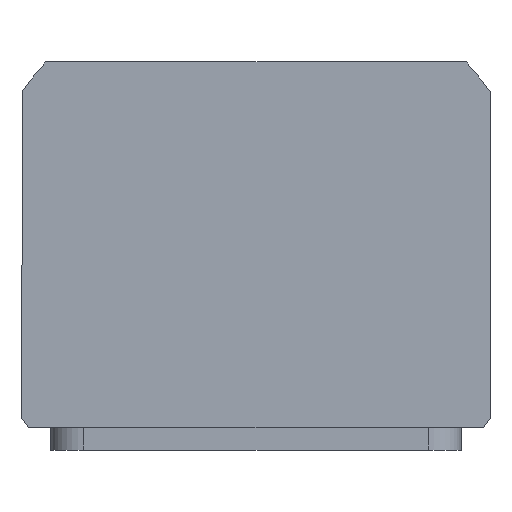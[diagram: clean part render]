
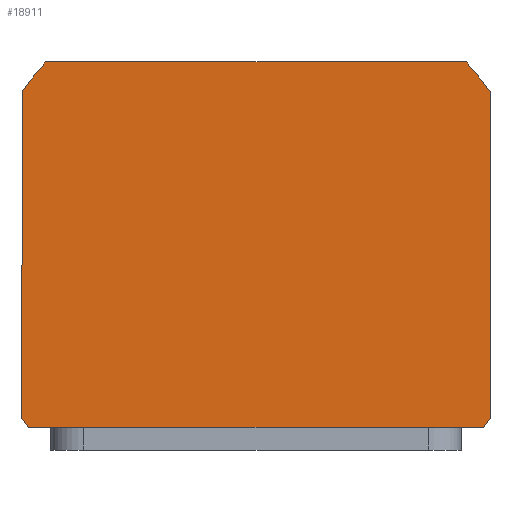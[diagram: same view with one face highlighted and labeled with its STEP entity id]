
A CAD part, top view. The second image highlights one B-rep face of the part: STEP entity #18911.
In plain terms, the highlighted planar face has unit normal (0, 0, 1) as drawn and (0, 0, -1) by its records, which use the part's own axes.
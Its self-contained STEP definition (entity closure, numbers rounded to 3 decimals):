
#450 = VECTOR ( 'NONE', #20186, 1000. ) ;
#657 = DIRECTION ( 'NONE',  ( 1., 0., 0. ) ) ;
#794 = VECTOR ( 'NONE', #4384, 1000. ) ;
#1077 = AXIS2_PLACEMENT_3D ( 'NONE', #2618, #15007, #4395 ) ;
#1156 = AXIS2_PLACEMENT_3D ( 'NONE', #21855, #11262, #657 ) ;
#1867 = CARTESIAN_POINT ( 'NONE',  ( 57., 42.275, 0. ) ) ;
#2120 = CARTESIAN_POINT ( 'NONE',  ( -57., -37.255, 0. ) ) ;
#2406 = FACE_OUTER_BOUND ( 'NONE', #16281, .T. ) ;
#2480 = EDGE_CURVE ( 'NONE', #22853, #8875, #10194, .T. ) ;
#2618 = CARTESIAN_POINT ( 'NONE',  ( 0., 2.51, 0. ) ) ;
#3253 = DIRECTION ( 'NONE',  ( 0., 0., 1. ) ) ;
#3346 = CARTESIAN_POINT ( 'NONE',  ( 55.382, 44.5, 0. ) ) ;
#3394 = DIRECTION ( 'NONE',  ( 0., -1., 0. ) ) ;
#3952 = AXIS2_PLACEMENT_3D ( 'NONE', #13858, #3253, #15634 ) ;
#4026 = ORIENTED_EDGE ( 'NONE', *, *, #5875, .F. ) ;
#4384 = DIRECTION ( 'NONE',  ( 0., 1., 0. ) ) ;
#4395 = DIRECTION ( 'NONE',  ( 1., 0., 0. ) ) ;
#4594 = LINE ( 'NONE', #14013, #13995 ) ;
#5151 = LINE ( 'NONE', #11281, #450 ) ;
#5875 = EDGE_CURVE ( 'NONE', #21600, #22853, #10846, .T. ) ;
#5992 = CARTESIAN_POINT ( 'NONE',  ( -57., 42.275, 0. ) ) ;
#6539 = PLANE ( 'NONE',  #14037 ) ;
#6618 = DIRECTION ( 'NONE',  ( 1., 0., 0. ) ) ;
#7021 = CIRCLE ( 'NONE', #16390, 69.5 ) ;
#7616 = CARTESIAN_POINT ( 'NONE',  ( 0., 2.51, 0. ) ) ;
#8036 = VERTEX_POINT ( 'NONE', #18632 ) ;
#8271 = CARTESIAN_POINT ( 'NONE',  ( -55.382, 44.5, 0. ) ) ;
#8317 = CARTESIAN_POINT ( 'NONE',  ( 0., 0., 0. ) ) ;
#8875 = VERTEX_POINT ( 'NONE', #1867 ) ;
#9410 = DIRECTION ( 'NONE',  ( 1., 0., 0. ) ) ;
#10091 = DIRECTION ( 'NONE',  ( 0., 0., 1. ) ) ;
#10194 = LINE ( 'NONE', #22027, #794 ) ;
#10332 = CARTESIAN_POINT ( 'NONE',  ( 51.189, -44.5, 0. ) ) ;
#10405 = CIRCLE ( 'NONE', #1156, 69.5 ) ;
#10515 = ORIENTED_EDGE ( 'NONE', *, *, #18950, .F. ) ;
#10528 = ORIENTED_EDGE ( 'NONE', *, *, #20862, .F. ) ;
#10839 = CARTESIAN_POINT ( 'NONE',  ( 57., -37.255, 0. ) ) ;
#10846 = CIRCLE ( 'NONE', #1077, 69.5 ) ;
#11259 = VECTOR ( 'NONE', #6618, 1000. ) ;
#11262 = DIRECTION ( 'NONE',  ( 0., 0., 1. ) ) ;
#11281 = CARTESIAN_POINT ( 'NONE',  ( -57., 44.5, 0. ) ) ;
#11321 = EDGE_CURVE ( 'NONE', #18194, #13966, #7021, .T. ) ;
#11385 = EDGE_CURVE ( 'NONE', #20523, #18194, #5151, .T. ) ;
#11508 = CIRCLE ( 'NONE', #3952, 69.5 ) ;
#12358 = LINE ( 'NONE', #20716, #11259 ) ;
#13155 = ORIENTED_EDGE ( 'NONE', *, *, #11321, .F. ) ;
#13858 = CARTESIAN_POINT ( 'NONE',  ( 0., 2.51, 0. ) ) ;
#13884 = EDGE_CURVE ( 'NONE', #8875, #20523, #10405, .T. ) ;
#13966 = VERTEX_POINT ( 'NONE', #5992 ) ;
#13995 = VECTOR ( 'NONE', #3394, 1000. ) ;
#14013 = CARTESIAN_POINT ( 'NONE',  ( -57., 44.5, 0. ) ) ;
#14037 = AXIS2_PLACEMENT_3D ( 'NONE', #8317, #10091, #22486 ) ;
#14518 = ORIENTED_EDGE ( 'NONE', *, *, #13884, .F. ) ;
#15007 = DIRECTION ( 'NONE',  ( 0., 0., 1. ) ) ;
#15572 = ORIENTED_EDGE ( 'NONE', *, *, #15610, .F. ) ;
#15610 = EDGE_CURVE ( 'NONE', #13966, #16843, #4594, .T. ) ;
#15634 = DIRECTION ( 'NONE',  ( 1., 0., 0. ) ) ;
#16281 = EDGE_LOOP ( 'NONE', ( #14518, #21430, #4026, #10515, #10528, #15572, #13155, #16713 ) ) ;
#16390 = AXIS2_PLACEMENT_3D ( 'NONE', #7616, #20025, #9410 ) ;
#16713 = ORIENTED_EDGE ( 'NONE', *, *, #11385, .F. ) ;
#16843 = VERTEX_POINT ( 'NONE', #2120 ) ;
#18194 = VERTEX_POINT ( 'NONE', #8271 ) ;
#18632 = CARTESIAN_POINT ( 'NONE',  ( -51.189, -44.5, 0. ) ) ;
#18911 = ADVANCED_FACE ( 'NONE', ( #2406 ), #6539, .F. ) ;
#18950 = EDGE_CURVE ( 'NONE', #8036, #21600, #12358, .T. ) ;
#20025 = DIRECTION ( 'NONE',  ( 0., 0., 1. ) ) ;
#20186 = DIRECTION ( 'NONE',  ( -1., 0., 0. ) ) ;
#20523 = VERTEX_POINT ( 'NONE', #3346 ) ;
#20716 = CARTESIAN_POINT ( 'NONE',  ( -57., -44.5, 0. ) ) ;
#20862 = EDGE_CURVE ( 'NONE', #16843, #8036, #11508, .T. ) ;
#21430 = ORIENTED_EDGE ( 'NONE', *, *, #2480, .F. ) ;
#21600 = VERTEX_POINT ( 'NONE', #10332 ) ;
#21855 = CARTESIAN_POINT ( 'NONE',  ( 0., 2.51, 0. ) ) ;
#22027 = CARTESIAN_POINT ( 'NONE',  ( 57., 44.5, 0. ) ) ;
#22486 = DIRECTION ( 'NONE',  ( 1., 0., 0. ) ) ;
#22853 = VERTEX_POINT ( 'NONE', #10839 ) ;
